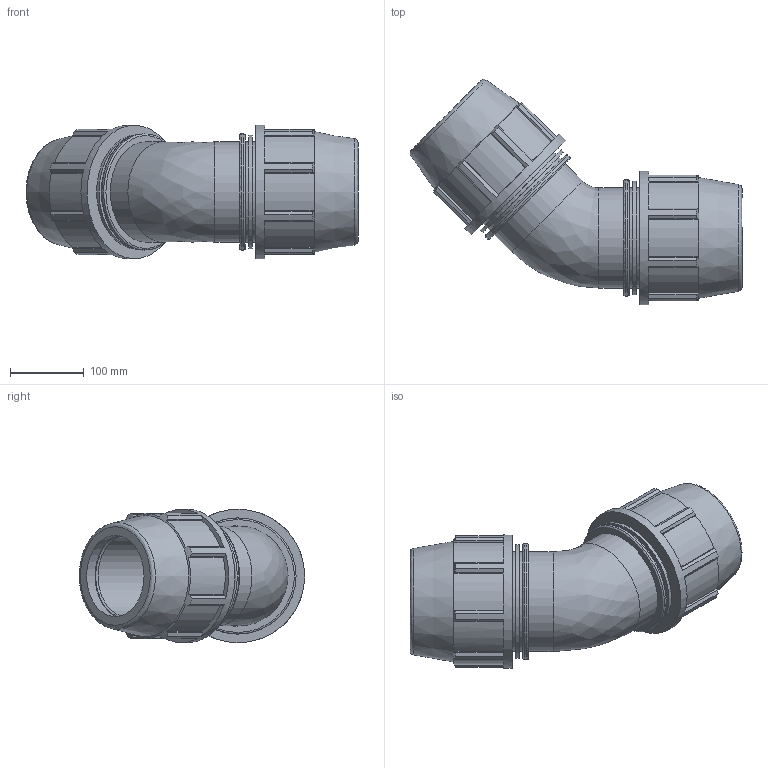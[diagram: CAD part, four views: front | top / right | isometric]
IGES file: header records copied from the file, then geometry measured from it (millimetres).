
Global section: file name: 0706061100A.ipt; native system: Autodesk Inventor 2015; preprocessor: unknown; author: Кирилл,,11,0; organization: 20170224.180708; date: 20170608.042458; units: millimetre
Bounding box: 450.05 x 305.55 x 181 mm (x, y, z)
Volume: 4288845.6 mm3; surface area: 475568 mm2
Topology: 1 solids, 1 shells, 140 faces, 388 edges, 262 vertices
Faces by surface type: plane 94, cylinder 28, revolution 14, cone 4
Full cylindrical faces by diameter (mm): 135.75 x6, 154.321 x2, 157.47 x2, 181 x2
